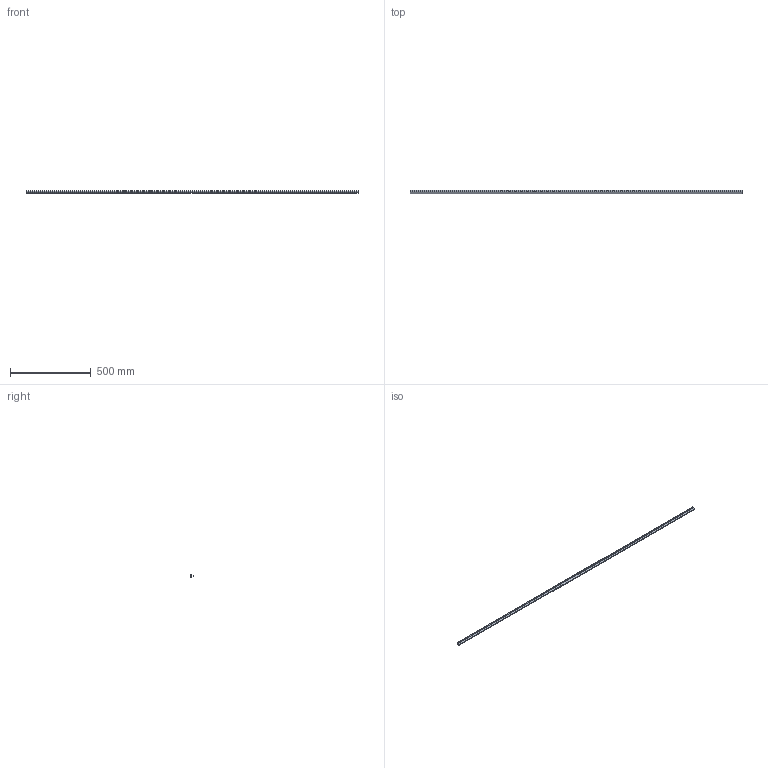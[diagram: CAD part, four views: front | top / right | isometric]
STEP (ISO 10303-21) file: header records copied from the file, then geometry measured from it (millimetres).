
FILE_DESCRIPTION(/* description */ (''),/* implementation_level */ '2;1');
FILE_NAME(/* name */ 'FLY LIGHT_6090099_stp.stp',/* time_stamp */ '2019-06-12T12:15:23+02:00',/* author */ (''),/* organization */ (''),/* preprocessor_version */ 'ST-DEVELOPER v16.7',/* originating_system */ 'SIEMENS PLM Software NX 12.0',/* authorisation */ '');
FILE_SCHEMA (('AUTOMOTIVE_DESIGN { 1 0 10303 214 3 1 1 1 }'));
Length unit declared in the file: millimetre
Products named in the file (1): p.sc256C24D8ywq1
Bounding box: 2050 x 19.18 x 15.2 mm (x, y, z)
Volume: 150527.1 mm3; surface area: 248973.8 mm2
Topology: 1 solids, 1 shells, 63 faces, 181 edges, 120 vertices
Faces by surface type: cylinder 31, plane 29, extrusion 2, torus 1
Entity records: 2581 total; most frequent: CARTESIAN_POINT 401, DIRECTION 366, ORIENTED_EDGE 362, EDGE_CURVE 181, AXIS2_PLACEMENT_3D 125, VERTEX_POINT 120, VECTOR 116, LINE 114
